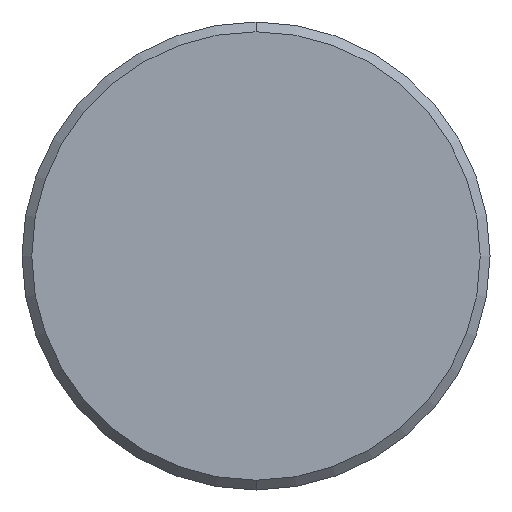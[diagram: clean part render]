
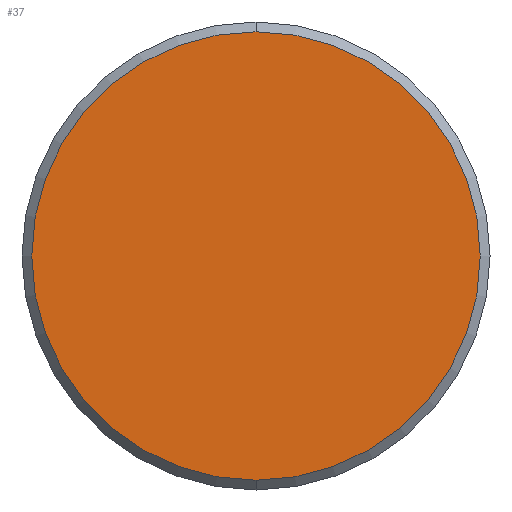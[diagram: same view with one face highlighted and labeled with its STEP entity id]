
A CAD part, front view. The second image highlights one B-rep face of the part: STEP entity #37.
In plain terms, the highlighted planar face has unit normal (0, -1, 0).
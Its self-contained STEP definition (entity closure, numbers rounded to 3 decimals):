
#17 = AXIS2_PLACEMENT_3D ( 'NONE', #68, #223, #156 ) ;
#25 = CIRCLE ( 'NONE', #17, 2.875 ) ;
#31 = ORIENTED_EDGE ( 'NONE', *, *, #129, .T. ) ;
#37 = ADVANCED_FACE ( 'NONE', ( #84 ), #150, .F. ) ;
#42 = AXIS2_PLACEMENT_3D ( 'NONE', #126, #70, #178 ) ;
#68 = CARTESIAN_POINT ( 'NONE',  ( 0., 0., 0. ) ) ;
#70 = DIRECTION ( 'NONE',  ( 0., -1., 0. ) ) ;
#72 = EDGE_LOOP ( 'NONE', ( #31, #232 ) ) ;
#83 = EDGE_CURVE ( 'NONE', #176, #166, #127, .T. ) ;
#84 = FACE_OUTER_BOUND ( 'NONE', #72, .T. ) ;
#87 = DIRECTION ( 'NONE',  ( 0., 0., 1. ) ) ;
#89 = CARTESIAN_POINT ( 'NONE',  ( 0., 0., 0. ) ) ;
#94 = CARTESIAN_POINT ( 'NONE',  ( 0., 0., -2.875 ) ) ;
#126 = CARTESIAN_POINT ( 'NONE',  ( 0., 0., 0. ) ) ;
#127 = CIRCLE ( 'NONE', #42, 2.875 ) ;
#129 = EDGE_CURVE ( 'NONE', #166, #176, #25, .T. ) ;
#150 = PLANE ( 'NONE',  #234 ) ;
#156 = DIRECTION ( 'NONE',  ( 0., 0., 1. ) ) ;
#166 = VERTEX_POINT ( 'NONE', #245 ) ;
#176 = VERTEX_POINT ( 'NONE', #94 ) ;
#178 = DIRECTION ( 'NONE',  ( 0., 0., 1. ) ) ;
#223 = DIRECTION ( 'NONE',  ( 0., -1., 0. ) ) ;
#232 = ORIENTED_EDGE ( 'NONE', *, *, #83, .T. ) ;
#234 = AXIS2_PLACEMENT_3D ( 'NONE', #89, #259, #87 ) ;
#245 = CARTESIAN_POINT ( 'NONE',  ( 0., 0., 2.875 ) ) ;
#259 = DIRECTION ( 'NONE',  ( 0., 1., 0. ) ) ;
